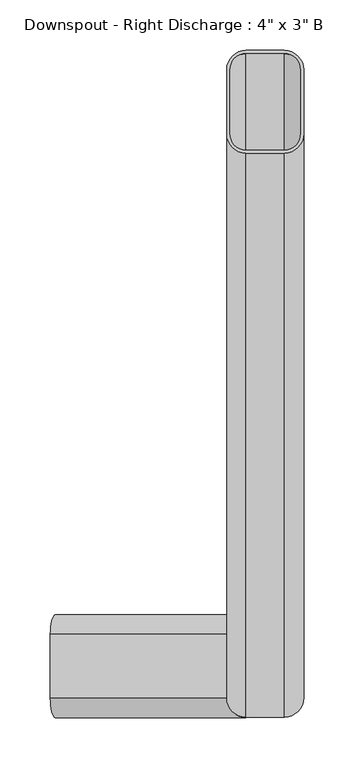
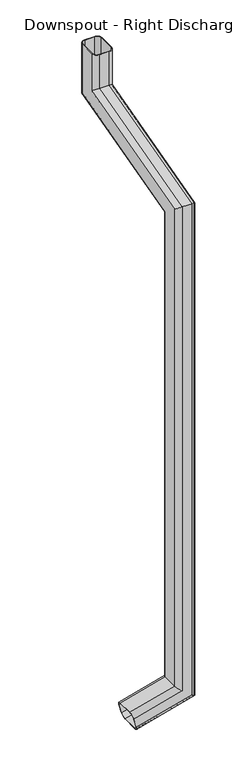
"""IFC4 building model written with IfcOpenShell, lengths in millimetres: proxy geometry."""

from ifc_helpers import new_model, si_unit, frame, origin, place, context, project, spatial, polyline, circle_curve, ellipse_curve, source, transform, mapped, element, save
from ifc_brep_helpers import plane_surface, cylinder_surface, revolved_surface, advanced_brep


def proxy_80003a3c(model_context):
    return source(origin(), model_context, "Body", "AdvancedBrep", [
        advanced_brep(
        [(-193.3389944, 171.45, 115.598226), (-198.2694972, 152.4, 133.999113), (-208.1305028, 152.4, 170.800887), (-213.0610056, 171.45, 189.201774), (-213.0610056, 234.95, 189.201774), (-208.1305028, 254.0, 170.800887), (-198.2694972, 254.0, 133.999113), (-193.3389944, 234.95, 115.598226), (-194.1607448, 171.45, 118.6650405), (-194.1607448, 234.95, 118.6650405), (-198.2694972, 250.825, 133.999113), (-208.1305028, 250.825, 170.800887), (-212.2392552, 234.95, 186.1349595), (-212.2392552, 171.45, 186.1349595), (-208.1305028, 155.575, 170.800887), (-198.2694972, 155.575, 133.999113), (19.05, 152.4, 192.2296968), (38.1, 171.45, 177.6121177), (38.1, 171.45, 2202.9664149), (19.05, 152.4, 2217.583994), (-38.1, 171.45, 236.0824341), (-19.05, 152.4, 221.464855), (-19.05, 152.4, 2217.583994), (-38.1, 171.45, 2202.9664149), (-38.1, 234.95, 236.0824341), (-38.1, 730.25, 2352.6964236), (-38.1, 730.25, 2506.1337918), (-38.1, 793.75, 2506.1337918), (-38.1, 793.75, 2303.9711599), (-38.1, 234.95, 2154.2411512), (-19.05, 254.0, 221.464855), (-19.05, 254.0, 2139.6235721), (38.1, 234.95, 177.6121177), (19.05, 254.0, 192.2296968), (19.05, 254.0, 2139.6235721), (38.1, 234.95, 2154.2411512), (38.1, 793.75, 2303.9711599), (38.1, 793.75, 2506.1337918), (38.1, 730.25, 2506.1337918), (38.1, 730.25, 2352.6964236), (34.925, 234.95, 180.0483808), (34.925, 171.45, 180.0483808), (34.925, 171.45, 2202.9664149), (34.925, 730.25, 2352.6964236), (34.925, 730.25, 2506.1337918), (34.925, 793.75, 2506.1337918), (34.925, 793.75, 2303.9711599), (34.925, 234.95, 2154.2411512), (19.05, 250.825, 192.2296968), (19.05, 250.825, 2142.0598352), (-34.925, 234.95, 233.646171), (-19.05, 250.825, 221.464855), (-19.05, 250.825, 2142.0598352), (-34.925, 234.95, 2154.2411512), (-34.925, 171.45, 233.646171), (-34.925, 793.75, 2303.9711599), (-34.925, 793.75, 2506.1337918), (-34.925, 730.25, 2506.1337918), (-34.925, 730.25, 2352.6964236), (-34.925, 171.45, 2202.9664149), (-19.05, 155.575, 221.464855), (-19.05, 155.575, 2215.1477308), (19.05, 155.575, 192.2296968), (19.05, 155.575, 2215.1477308), (19.05, 711.2, 2367.3140028), (-19.05, 711.2, 2367.3140028), (-19.05, 812.8, 2289.3535808), (19.05, 812.8, 2289.3535808), (19.05, 809.625, 2291.789844), (-19.05, 809.625, 2291.789844), (-19.05, 714.375, 2364.8777396), (19.05, 714.375, 2364.8777396), (19.05, 812.8, 2506.1337918), (-19.05, 812.8, 2506.1337918), (-19.05, 711.2, 2506.1337918), (19.05, 711.2, 2506.1337918), (19.05, 714.375, 2506.1337918), (-19.05, 714.375, 2506.1337918), (-19.05, 809.625, 2506.1337918), (19.05, 809.625, 2506.1337918)],
        [
            (0, 1, circle_curve(frame((-198.2694972, 171.45, 133.999113), z_axis=(-0.9659258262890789, 0.0, -0.25881904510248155), x_axis=(0.0, -1.0, 0.0)), 19.05)),
            (1, 2),
            (2, 3, circle_curve(frame((-208.1305028, 171.45, 170.800887), z_axis=(-0.9659258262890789, 0.0, -0.25881904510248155), x_axis=(0.0, -1.0, 0.0)), 19.05)),
            (3, 4),
            (4, 5, circle_curve(frame((-208.1305028, 234.95, 170.800887), z_axis=(-0.9659258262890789, 0.0, -0.25881904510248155), x_axis=(0.0, -1.0, 0.0)), 19.05)),
            (5, 6),
            (6, 7, circle_curve(frame((-198.2694972, 234.95, 133.999113), z_axis=(-0.9659258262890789, 0.0, -0.25881904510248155), x_axis=(0.0, -1.0, 0.0)), 19.05)),
            (7, 0),
            (8, 9),
            (9, 10, circle_curve(frame((-198.2694972, 234.95, 133.999113), z_axis=(0.9659258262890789, 0.0, 0.25881904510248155), x_axis=(0.0, -1.0, 0.0)), 15.875)),
            (10, 11),
            (11, 12, circle_curve(frame((-208.1305028, 234.95, 170.800887), z_axis=(0.9659258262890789, 0.0, 0.25881904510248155), x_axis=(0.0, -1.0, 0.0)), 15.875)),
            (12, 13),
            (13, 14, circle_curve(frame((-208.1305028, 171.45, 170.800887), z_axis=(0.9659258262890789, 0.0, 0.25881904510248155), x_axis=(0.0, -1.0, 0.0)), 15.875)),
            (14, 15),
            (15, 8, circle_curve(frame((-198.2694972, 171.45, 133.999113), z_axis=(0.9659258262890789, 0.0, 0.25881904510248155), x_axis=(0.0, -1.0, 0.0)), 15.875)),
            (16, 17, ellipse_curve(frame((19.05, 171.45, 192.2296968), z_axis=(0.6087614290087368, 0.0, 0.7933533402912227), x_axis=(0.7933533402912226, 0.0, -0.608761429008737)), 24.0119995, 19.05)),
            (17, 18),
            (18, 19, ellipse_curve(frame((19.05, 171.45, 2202.9664149), z_axis=(0.0, -0.6087614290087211, -0.7933533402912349), x_axis=(0.0, 0.793353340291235, -0.6087614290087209)), 24.0119995, 19.05)),
            (19, 16),
            (20, 21, ellipse_curve(frame((-19.05, 171.45, 221.464855), z_axis=(0.6087614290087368, 0.0, 0.7933533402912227), x_axis=(0.7933533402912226, 0.0, -0.608761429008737)), 24.0119995, 19.05)),
            (21, 22),
            (22, 23, ellipse_curve(frame((-19.05, 171.45, 2202.9664149), z_axis=(0.0, -0.6087614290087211, -0.7933533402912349), x_axis=(0.0, 0.793353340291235, -0.6087614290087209)), 24.0119995, 19.05)),
            (23, 20),
            (24, 20),
            (23, 25),
            (25, 26),
            (26, 27),
            (27, 28),
            (28, 29),
            (29, 24),
            (30, 24, ellipse_curve(frame((-19.05, 234.95, 221.464855), z_axis=(0.6087614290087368, 0.0, 0.7933533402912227), x_axis=(0.7933533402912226, 0.0, -0.608761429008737)), 24.0119995, 19.05)),
            (29, 31, ellipse_curve(frame((-19.05, 234.95, 2154.2411512), z_axis=(0.0, -0.6087614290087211, -0.7933533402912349), x_axis=(0.0, 0.793353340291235, -0.6087614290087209)), 24.0119995, 19.05)),
            (31, 30),
            (32, 33, ellipse_curve(frame((19.05, 234.95, 192.2296968), z_axis=(0.6087614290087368, 0.0, 0.7933533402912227), x_axis=(0.7933533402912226, 0.0, -0.608761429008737)), 24.0119995, 19.05)),
            (33, 34),
            (34, 35, ellipse_curve(frame((19.05, 234.95, 2154.2411512), z_axis=(0.0, -0.6087614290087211, -0.7933533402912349), x_axis=(0.0, 0.793353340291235, -0.6087614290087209)), 24.0119995, 19.05)),
            (35, 32),
            (17, 32),
            (35, 36),
            (36, 37),
            (37, 38),
            (38, 39),
            (39, 18),
            (40, 41),
            (41, 42),
            (42, 43),
            (43, 44),
            (44, 45),
            (45, 46),
            (46, 47),
            (47, 40),
            (48, 40, ellipse_curve(frame((19.05, 234.95, 192.2296968), z_axis=(-0.6087614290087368, 0.0, -0.7933533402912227), x_axis=(-0.7933533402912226, 0.0, 0.608761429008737)), 20.0099996, 15.875)),
            (47, 49, ellipse_curve(frame((19.05, 234.95, 2154.2411512), z_axis=(0.0, 0.6087614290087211, 0.7933533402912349), x_axis=(0.0, -0.793353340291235, 0.6087614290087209)), 20.0099996, 15.875)),
            (49, 48),
            (50, 51, ellipse_curve(frame((-19.05, 234.95, 221.464855), z_axis=(-0.6087614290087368, 0.0, -0.7933533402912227), x_axis=(-0.7933533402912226, 0.0, 0.608761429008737)), 20.0099996, 15.875)),
            (51, 52),
            (52, 53, ellipse_curve(frame((-19.05, 234.95, 2154.2411512), z_axis=(0.0, 0.6087614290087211, 0.7933533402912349), x_axis=(0.0, -0.793353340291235, 0.6087614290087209)), 20.0099996, 15.875)),
            (53, 50),
            (54, 50),
            (53, 55),
            (55, 56),
            (56, 57),
            (57, 58),
            (58, 59),
            (59, 54),
            (60, 54, ellipse_curve(frame((-19.05, 171.45, 221.464855), z_axis=(-0.6087614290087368, 0.0, -0.7933533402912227), x_axis=(-0.7933533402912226, 0.0, 0.608761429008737)), 20.0099996, 15.875)),
            (59, 61, ellipse_curve(frame((-19.05, 171.45, 2202.9664149), z_axis=(0.0, 0.6087614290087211, 0.7933533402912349), x_axis=(0.0, -0.793353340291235, 0.6087614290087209)), 20.0099996, 15.875)),
            (61, 60),
            (41, 62, ellipse_curve(frame((19.05, 171.45, 192.2296968), z_axis=(-0.6087614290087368, 0.0, -0.7933533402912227), x_axis=(-0.7933533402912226, 0.0, 0.608761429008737)), 20.0099996, 15.875)),
            (62, 63),
            (63, 42, ellipse_curve(frame((19.05, 171.45, 2202.9664149), z_axis=(0.0, 0.6087614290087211, 0.7933533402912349), x_axis=(0.0, -0.793353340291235, 0.6087614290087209)), 20.0099996, 15.875)),
            (39, 64, ellipse_curve(frame((19.05, 730.25, 2352.6964236), z_axis=(0.0, -0.6087614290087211, -0.7933533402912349), x_axis=(0.0, -0.7933533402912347, 0.6087614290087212)), 24.0119995, 19.05)),
            (64, 19),
            (22, 19),
            (64, 65),
            (65, 22),
            (65, 25, ellipse_curve(frame((-19.05, 730.25, 2352.6964236), z_axis=(0.0, -0.6087614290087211, -0.7933533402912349), x_axis=(0.0, -0.7933533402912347, 0.6087614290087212)), 24.0119995, 19.05)),
            (28, 66, ellipse_curve(frame((-19.05, 793.75, 2303.9711599), z_axis=(0.0, -0.6087614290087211, -0.7933533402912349), x_axis=(0.0, -0.7933533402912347, 0.6087614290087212)), 24.0119995, 19.05)),
            (66, 31),
            (34, 31),
            (66, 67),
            (67, 34),
            (67, 36, ellipse_curve(frame((19.05, 793.75, 2303.9711599), z_axis=(0.0, -0.6087614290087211, -0.7933533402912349), x_axis=(0.0, -0.7933533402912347, 0.6087614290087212)), 24.0119995, 19.05)),
            (46, 68, ellipse_curve(frame((19.05, 793.75, 2303.9711599), z_axis=(0.0, 0.6087614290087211, 0.7933533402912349), x_axis=(0.0, 0.7933533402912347, -0.6087614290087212)), 20.0099996, 15.875)),
            (68, 49),
            (52, 49),
            (68, 69),
            (69, 52),
            (69, 55, ellipse_curve(frame((-19.05, 793.75, 2303.9711599), z_axis=(0.0, 0.6087614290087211, 0.7933533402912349), x_axis=(0.0, 0.7933533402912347, -0.6087614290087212)), 20.0099996, 15.875)),
            (58, 70, ellipse_curve(frame((-19.05, 730.25, 2352.6964236), z_axis=(0.0, 0.6087614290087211, 0.7933533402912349), x_axis=(0.0, 0.7933533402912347, -0.6087614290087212)), 20.0099996, 15.875)),
            (70, 61),
            (63, 61),
            (70, 71),
            (71, 63),
            (71, 43, ellipse_curve(frame((19.05, 730.25, 2352.6964236), z_axis=(0.0, 0.6087614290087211, 0.7933533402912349), x_axis=(0.0, 0.7933533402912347, -0.6087614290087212)), 20.0099996, 15.875)),
            (37, 72, circle_curve(frame((19.05, 793.75, 2506.1337918), z_axis=(0.0, 0.0, 1.0), x_axis=(0.0, -1.0, 0.0)), 19.05)),
            (72, 73),
            (73, 27, circle_curve(frame((-19.05, 793.75, 2506.1337918), z_axis=(0.0, 0.0, 1.0), x_axis=(0.0, -1.0, 0.0)), 19.05)),
            (26, 74, circle_curve(frame((-19.05, 730.25, 2506.1337918), z_axis=(0.0, 0.0, 1.0), x_axis=(0.0, -1.0, 0.0)), 19.05)),
            (74, 75),
            (75, 38, circle_curve(frame((19.05, 730.25, 2506.1337918), z_axis=(0.0, 0.0, 1.0), x_axis=(0.0, -1.0, 0.0)), 19.05)),
            (44, 76, circle_curve(frame((19.05, 730.25, 2506.1337918), z_axis=(0.0, 0.0, -1.0), x_axis=(0.0, -1.0, 0.0)), 15.875)),
            (76, 77),
            (77, 57, circle_curve(frame((-19.05, 730.25, 2506.1337918), z_axis=(0.0, 0.0, -1.0), x_axis=(0.0, -1.0, 0.0)), 15.875)),
            (56, 78, circle_curve(frame((-19.05, 793.75, 2506.1337918), z_axis=(0.0, 0.0, -1.0), x_axis=(0.0, -1.0, 0.0)), 15.875)),
            (78, 79),
            (79, 45, circle_curve(frame((19.05, 793.75, 2506.1337918), z_axis=(0.0, 0.0, -1.0), x_axis=(0.0, -1.0, 0.0)), 15.875)),
            (75, 64),
            (74, 65),
            (73, 66),
            (72, 67),
            (79, 68),
            (78, 69),
            (77, 70),
            (76, 71),
            (0, 17),
            (16, 1),
            (21, 2),
            (20, 3),
            (24, 4),
            (30, 5),
            (33, 6),
            (32, 7),
            (8, 41),
            (40, 9),
            (48, 10),
            (51, 11),
            (50, 12),
            (54, 13),
            (60, 14),
            (62, 15),
        ],
        [
            plane_surface(frame((-203.2, 147.5002825, 152.4), z_axis=(-0.9659258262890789, 0.0, -0.25881904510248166), x_axis=(0.25881904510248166, 0.0, -0.9659258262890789))),
            cylinder_surface(frame((19.05, 171.45, 206.8472759), z_axis=(0.0, 0.0, -1.0), x_axis=(0.0, -1.0, 0.0)), 19.05),
            cylinder_surface(frame((-19.05, 171.45, 206.8472759), z_axis=(0.0, 0.0, -1.0), x_axis=(0.0, -1.0, 0.0)), 19.05),
            plane_surface(frame((-38.1, 171.45, 236.0824341), z_axis=(-1.0, 0.0, 0.0), x_axis=(0.0, 0.0, 1.0))),
            cylinder_surface(frame((-19.05, 234.95, 206.8472759), z_axis=(0.0, 0.0, -1.0), x_axis=(0.0, -1.0, 0.0)), 19.05),
            cylinder_surface(frame((19.05, 234.95, 206.8472759), z_axis=(0.0, 0.0, -1.0), x_axis=(0.0, -1.0, 0.0)), 19.05),
            plane_surface(frame((38.1, 234.95, 177.6121177), z_axis=(1.0, 0.0, 0.0), x_axis=(0.0, 0.0, 1.0))),
            plane_surface(frame((34.925, 171.45, 180.0483808), z_axis=(-1.0, 0.0, 0.0), x_axis=(0.0, 0.0, 1.0))),
            revolved_surface(polyline([(19.05, 219.075, 2166.4224671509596), (19.05, 219.075, 180.0483808)]), (19.05, 234.95, 206.8472759), (0.0, 0.0, 1.0)),
            revolved_surface(polyline([(-19.05, 219.075, 2166.4224671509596), (-19.05, 219.075, 209.28353904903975)]), (-19.05, 234.95, 206.8472759), (0.0, 0.0, 1.0)),
            plane_surface(frame((-34.925, 234.95, 233.646171), z_axis=(1.0, 0.0, 0.0), x_axis=(0.0, 0.0, 1.0))),
            revolved_surface(polyline([(-19.05, 155.575, 2215.1477308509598), (-19.05, 155.575, 209.28353904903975)]), (-19.05, 171.45, 206.8472759), (0.0, 0.0, 1.0)),
            revolved_surface(polyline([(19.05, 155.575, 2215.1477308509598), (19.05, 155.575, 180.0483808)]), (19.05, 171.45, 206.8472759), (0.0, 0.0, 1.0)),
            cylinder_surface(frame((19.05, 194.9824953, 2209.271928), z_axis=(0.0, -0.9659258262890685, -0.25881904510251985), x_axis=(0.0, -0.25881904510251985, 0.9659258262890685)), 19.05),
            plane_surface(frame((19.05, 152.4, 2217.583994), z_axis=(0.0, -0.2588190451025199, 0.9659258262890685), x_axis=(0.0, 0.9659258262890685, 0.2588190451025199))),
            cylinder_surface(frame((-19.05, 194.9824953, 2209.271928), z_axis=(0.0, -0.9659258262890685, -0.25881904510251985), x_axis=(0.0, -0.25881904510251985, 0.9659258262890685)), 19.05),
            cylinder_surface(frame((-19.05, 211.4175047, 2147.9356381), z_axis=(0.0, -0.9659258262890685, -0.25881904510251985), x_axis=(0.0, -0.25881904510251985, 0.9659258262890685)), 19.05),
            plane_surface(frame((-19.05, 254.0, 2139.6235721), z_axis=(0.0, 0.25881904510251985, -0.9659258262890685), x_axis=(0.0, 0.9659258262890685, 0.25881904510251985))),
            cylinder_surface(frame((19.05, 211.4175047, 2147.9356381), z_axis=(0.0, -0.9659258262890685, -0.25881904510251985), x_axis=(0.0, -0.25881904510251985, 0.9659258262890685)), 19.05),
            revolved_surface(polyline([(19.05, 801.4074953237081, 2322.457988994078), (19.05, 219.07499998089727, 2166.4224671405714)]), (19.05, 211.4175047, 2147.9356381), (0.0, 0.9659258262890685, 0.25881904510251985)),
            plane_surface(frame((19.05, 250.825, 2142.0598352), z_axis=(0.0, -0.2588190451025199, 0.9659258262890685), x_axis=(0.0, 0.9659258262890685, 0.2588190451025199))),
            revolved_surface(polyline([(-19.05, 801.4074953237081, 2322.457988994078), (-19.05, 219.07499998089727, 2166.4224671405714)]), (-19.05, 211.4175047, 2147.9356381), (0.0, 0.9659258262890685, 0.25881904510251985)),
            revolved_surface(polyline([(-19.05, 737.9074953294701, 2371.1832526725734), (-19.05, 155.5749999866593, 2215.1477308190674)]), (-19.05, 194.9824953, 2209.271928), (0.0, 0.9659258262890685, 0.25881904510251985)),
            plane_surface(frame((-19.05, 155.575, 2215.1477308), z_axis=(0.0, 0.2588190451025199, -0.9659258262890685), x_axis=(0.0, 0.9659258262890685, 0.2588190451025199))),
            revolved_surface(polyline([(19.05, 737.9074953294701, 2371.1832526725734), (19.05, 155.5749999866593, 2215.1477308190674)]), (19.05, 194.9824953, 2209.271928), (0.0, 0.9659258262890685, 0.25881904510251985)),
            plane_surface(frame((0.0, 706.3002825, 2506.1337918), z_axis=(0.0, 0.0, 1.0), x_axis=(1.0, 0.0, 0.0))),
            cylinder_surface(frame((19.05, 730.25, 2328.3337918), z_axis=(0.0, 0.0, -1.0), x_axis=(0.0, -1.0, 0.0)), 19.05),
            plane_surface(frame((19.05, 711.2, 2367.3140028), z_axis=(0.0, -1.0, 0.0), x_axis=(0.0, 0.0, 1.0))),
            cylinder_surface(frame((-19.05, 730.25, 2328.3337918), z_axis=(0.0, 0.0, -1.0), x_axis=(0.0, -1.0, 0.0)), 19.05),
            cylinder_surface(frame((-19.05, 793.75, 2328.3337918), z_axis=(0.0, 0.0, -1.0), x_axis=(0.0, -1.0, 0.0)), 19.05),
            plane_surface(frame((-19.05, 812.8, 2289.3535808), z_axis=(0.0, 1.0, 0.0), x_axis=(0.0, 0.0, 1.0))),
            cylinder_surface(frame((19.05, 793.75, 2328.3337918), z_axis=(0.0, 0.0, -1.0), x_axis=(0.0, -1.0, 0.0)), 19.05),
            revolved_surface(polyline([(19.05, 777.875, 2506.1337918), (19.05, 777.875, 2291.7898439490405)]), (19.05, 793.75, 2328.3337918), (0.0, 0.0, 1.0)),
            plane_surface(frame((19.05, 809.625, 2291.789844), z_axis=(0.0, -1.0, 0.0), x_axis=(0.0, 0.0, 1.0))),
            revolved_surface(polyline([(-19.05, 777.875, 2506.1337918), (-19.05, 777.875, 2291.7898439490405)]), (-19.05, 793.75, 2328.3337918), (0.0, 0.0, 1.0)),
            revolved_surface(polyline([(-19.05, 714.375, 2506.1337918), (-19.05, 714.375, 2340.51510764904)]), (-19.05, 730.25, 2328.3337918), (0.0, 0.0, 1.0)),
            plane_surface(frame((-19.05, 714.375, 2364.8777396), z_axis=(0.0, 1.0, 0.0), x_axis=(0.0, 0.0, 1.0))),
            revolved_surface(polyline([(19.05, 714.375, 2506.1337918), (19.05, 714.375, 2340.51510764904)]), (19.05, 730.25, 2328.3337918), (0.0, 0.0, 1.0)),
            cylinder_surface(frame((-198.2694972, 171.45, 133.999113), z_axis=(-0.9659258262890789, 0.0, -0.25881904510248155), x_axis=(0.0, -1.0, 0.0)), 19.05),
            plane_surface(frame((-198.2694972, 152.4, 133.999113), z_axis=(0.0, -1.0000000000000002, 0.0), x_axis=(0.9659258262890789, 0.0, 0.25881904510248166))),
            cylinder_surface(frame((-208.1305028, 171.45, 170.800887), z_axis=(-0.9659258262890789, 0.0, -0.25881904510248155), x_axis=(0.0, -1.0, 0.0)), 19.05),
            plane_surface(frame((-213.0610056, 171.45, 189.201774), z_axis=(-0.2588190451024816, 0.0, 0.9659258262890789), x_axis=(0.9659258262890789, 0.0, 0.2588190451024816))),
            cylinder_surface(frame((-208.1305028, 234.95, 170.800887), z_axis=(-0.9659258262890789, 0.0, -0.25881904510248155), x_axis=(0.0, -1.0, 0.0)), 19.05),
            plane_surface(frame((-208.1305028, 254.0, 170.800887), z_axis=(0.0, 1.0, 0.0), x_axis=(0.9659258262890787, 0.0, 0.2588190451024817))),
            cylinder_surface(frame((-198.2694972, 234.95, 133.999113), z_axis=(-0.9659258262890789, 0.0, -0.25881904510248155), x_axis=(0.0, -1.0, 0.0)), 19.05),
            plane_surface(frame((-193.3389944, 234.95, 115.598226), z_axis=(0.25881904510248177, 0.0, -0.9659258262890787), x_axis=(0.9659258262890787, 0.0, 0.25881904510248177))),
            plane_surface(frame((-194.1607448, 171.45, 118.6650405), z_axis=(-0.2588190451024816, 0.0, 0.9659258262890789), x_axis=(0.9659258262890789, 0.0, 0.2588190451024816))),
            revolved_surface(polyline([(30.816247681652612, 219.075, 195.38245333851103), (-198.2694972, 219.075, 133.999113)]), (-198.2694972, 234.95, 133.999113), (0.9659258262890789, 0.0, 0.25881904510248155)),
            plane_surface(frame((-198.2694972, 250.825, 133.999113), z_axis=(0.0, -1.0000000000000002, 0.0), x_axis=(0.9659258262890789, 0.0, 0.25881904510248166))),
            revolved_surface(polyline([(-7.283752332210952, 219.075, 224.61761159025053), (-208.13050285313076, 219.075, 170.80088698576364)]), (-208.1305028, 234.95, 170.800887), (0.9659258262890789, 0.0, 0.25881904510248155)),
            plane_surface(frame((-212.2392552, 234.95, 186.1349595), z_axis=(0.25881904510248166, 0.0, -0.9659258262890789), x_axis=(0.9659258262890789, 0.0, 0.25881904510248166))),
            revolved_surface(polyline([(-7.283752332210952, 155.575, 224.61761159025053), (-208.13050285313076, 155.575, 170.80088698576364)]), (-208.1305028, 171.45, 170.800887), (0.9659258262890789, 0.0, 0.25881904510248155)),
            plane_surface(frame((-208.1305028, 155.575, 170.800887), z_axis=(0.0, 1.0, 0.0), x_axis=(0.9659258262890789, 0.0, 0.25881904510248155))),
            revolved_surface(polyline([(30.816247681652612, 155.575, 195.38245333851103), (-198.2694972, 155.575, 133.999113)]), (-198.2694972, 171.45, 133.999113), (0.9659258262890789, 0.0, 0.25881904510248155)),
        ],
        [
            (0, [[1, 2, 3, 4, 5, 6, 7, 8], [9, 10, 11, 12, 13, 14, 15, 16]]),
            (1, [[17, 18, 19, 20]]),
            (2, [[21, 22, 23, 24]]),
            (3, [[25, -24, 26, 27, 28, 29, 30, 31]]),
            (4, [[32, -31, 33, 34]]),
            (5, [[35, 36, 37, 38]]),
            (6, [[39, -38, 40, 41, 42, 43, 44, -18]]),
            (7, [[45, 46, 47, 48, 49, 50, 51, 52]]),
            (8, [[53, -52, 54, 55]]),
            (9, [[56, 57, 58, 59]]),
            (10, [[60, -59, 61, 62, 63, 64, 65, 66]]),
            (11, [[67, -66, 68, 69]]),
            (12, [[70, 71, 72, -46]]),
            (13, [[-19, -44, 73, 74]]),
            (14, [[75, -74, 76, 77]]),
            (15, [[-23, -77, 78, -26]]),
            (16, [[-33, -30, 79, 80]]),
            (17, [[81, -80, 82, 83]]),
            (18, [[-37, -83, 84, -40]]),
            (19, [[-54, -51, 85, 86]]),
            (20, [[87, -86, 88, 89]]),
            (21, [[-58, -89, 90, -61]]),
            (22, [[-68, -65, 91, 92]]),
            (23, [[93, -92, 94, 95]]),
            (24, [[-72, -95, 96, -47]]),
            (25, [[-42, 97, 98, 99, -28, 100, 101, 102], [103, 104, 105, -63, 106, 107, 108, -49]]),
            (26, [[-73, -43, -102, 109]]),
            (27, [[-76, -109, -101, 110]]),
            (28, [[-78, -110, -100, -27]]),
            (29, [[-79, -29, -99, 111]]),
            (30, [[-82, -111, -98, 112]]),
            (31, [[-84, -112, -97, -41]]),
            (32, [[-85, -50, -108, 113]]),
            (33, [[-88, -113, -107, 114]]),
            (34, [[-90, -114, -106, -62]]),
            (35, [[-91, -64, -105, 115]]),
            (36, [[-94, -115, -104, 116]]),
            (37, [[-96, -116, -103, -48]]),
            (38, [[-1, 117, -17, 118]]),
            (39, [[-2, -118, -20, -75, -22, 119]]),
            (40, [[-3, -119, -21, 120]]),
            (41, [[-4, -120, -25, 121]]),
            (42, [[-5, -121, -32, 122]]),
            (43, [[-6, -122, -34, -81, -36, 123]]),
            (44, [[-7, -123, -35, 124]]),
            (45, [[-8, -124, -39, -117]]),
            (46, [[-9, 125, -45, 126]]),
            (47, [[-10, -126, -53, 127]]),
            (48, [[-11, -127, -55, -87, -57, 128]]),
            (49, [[-12, -128, -56, 129]]),
            (50, [[-13, -129, -60, 130]]),
            (51, [[-14, -130, -67, 131]]),
            (52, [[-15, -131, -69, -93, -71, 132]]),
            (53, [[-16, -132, -70, -125]]),
        ],
    ),
    ])


if __name__ == "__main__":
    model = new_model("IFC4")
    model_context = context("Model", 3, world=origin())
    ifc_project = project(units=[si_unit("LENGTHUNIT", "METRE", prefix="MILLI")], contexts=[model_context])
    site = spatial("IfcSite", under=ifc_project)
    building = spatial("IfcBuilding", under=site)
    placement = place(None, origin())
    proxy_shape = proxy_80003a3c(model_context)
    element("IfcBuildingElementProxy", 1, Name="Downspout - Right Discharge : 4\" x 3\" B", ObjectType="Downspout - Right Discharge : 4\" x 3\" B", at=placement, inside=building, context=model_context, shape_type="MappedRepresentation", body=[
        mapped(proxy_shape, transform((0.0, 0.0, 0.0), x_axis=(1.0, 0.0, 0.0), y_axis=(0.0, 1.0, 0.0), z_axis=(0.0, 0.0, 1.0))),
    ])
    save(model, "model.ifc")
